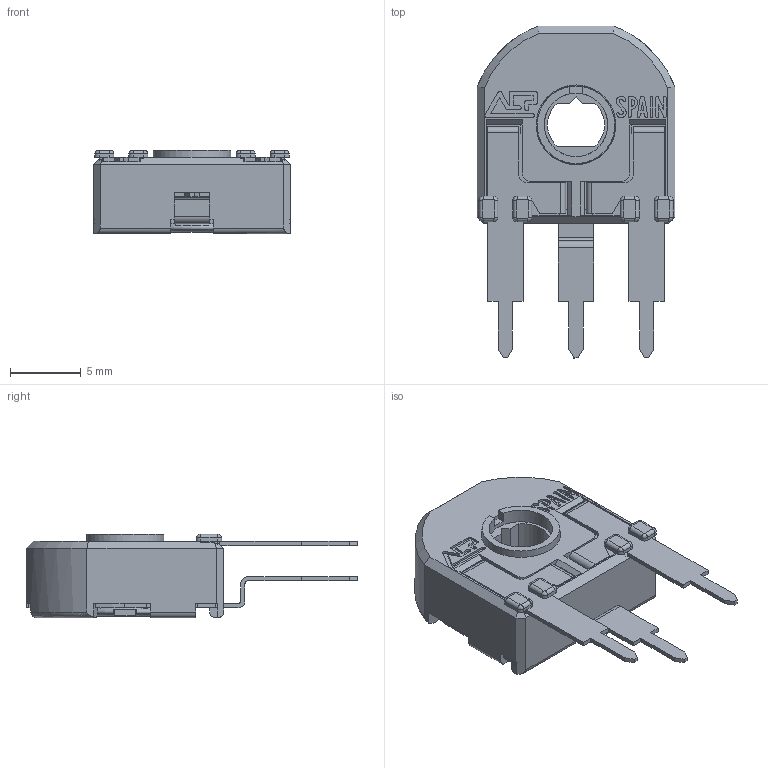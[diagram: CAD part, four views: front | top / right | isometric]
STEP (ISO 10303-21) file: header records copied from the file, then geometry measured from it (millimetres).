
FILE_DESCRIPTION(/* description */ (''),/* implementation_level */ '2;1');
FILE_NAME(/* name */ 'C:\Users\CEM\Desktop\ENVIAR\TRANSICION 3D CATALOGOS\CAR14KHA2,5.stp',/* time_stamp */ '2025-09-22T09:50:59+02:00',/* author */ ('CEM'),/* organization */ (''),/* preprocessor_version */ 'ST-DEVELOPER v17',/* originating_system */ 'Autodesk Inventor 2018',/* authorisation */ '');
FILE_SCHEMA (('AUTOMOTIVE_DESIGN { 1 0 10303 214 3 1 1 }'));
Length unit declared in the file: millimetre
Products named in the file (1): CAR14KHA2,5
Bounding box: 14 x 23.5 x 5.9 mm (x, y, z)
Volume: 550.5 mm3; surface area: 1569.1 mm2
Topology: 1 solids, 1 shells, 580 faces, 1691 edges, 1083 vertices
Faces by surface type: plane 397, cylinder 140, bspline 20, cone 14, torus 9
Full cylindrical faces by diameter (mm): 1.2 x2, 4.5 x1, 5.5 x1, 5.65 x1, 6.88 x1
Entity records: 19888 total; most frequent: CARTESIAN_POINT 3679, ORIENTED_EDGE 3382, DIRECTION 3176, EDGE_CURVE 1691, LINE 1252, VECTOR 1252, VERTEX_POINT 1083, AXIS2_PLACEMENT_3D 962
